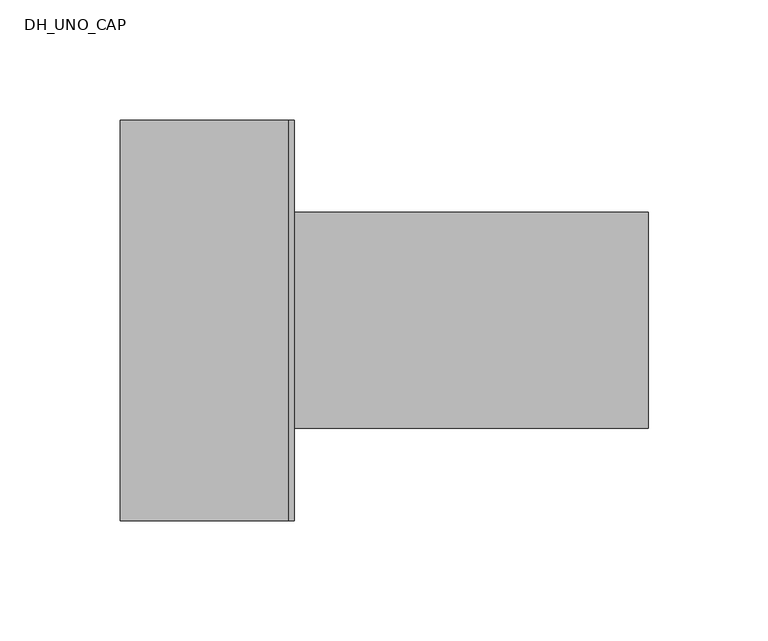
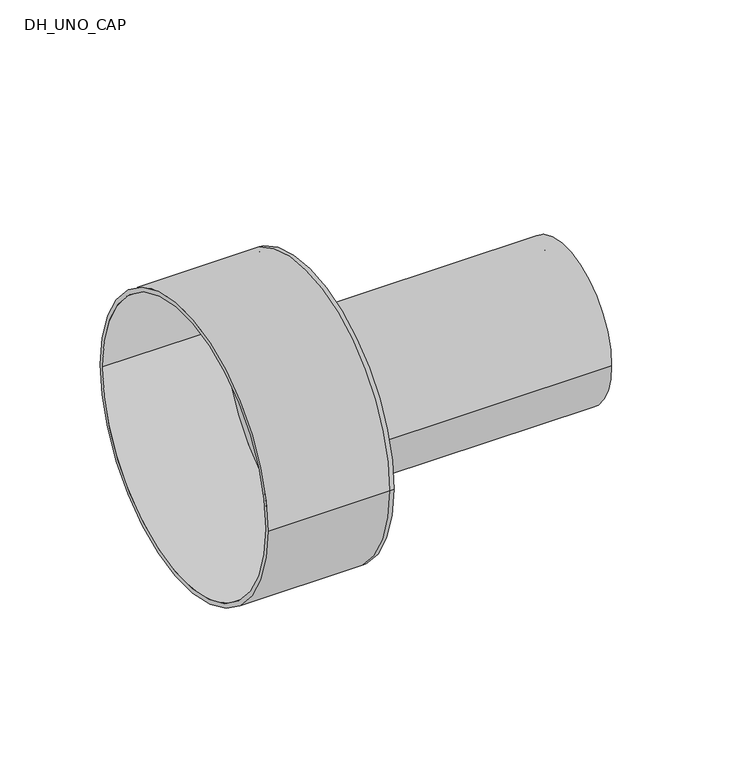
"""IFC4 building model written with IfcOpenShell, lengths in millimetres: pipe fitting geometry, DH_UNO_CAP : RAUTHERMEX UNO 11 COOL - Solid Cap."""

from ifc_helpers import new_model, si_unit, point, frame, origin, origin_2d, place, context, project, spatial, polyline, circle_curve, trimmed, segment, composite_curve, outline, extrude, source, transform, mapped, element, save
from ifc_brep_helpers import plane_surface, cylinder_surface, revolved_surface, advanced_brep


def dh_uno_cap_73119769(model_context):
    return source(origin(), model_context, "Body", "SolidModel", [
        extrude(outline(composite_curve([segment(trimmed(circle_curve(origin_2d(), 45.0), [point((-45.0, 0.0))], [point((45.0, 0.0))], False, "CARTESIAN"), True, "CONTINUOUS"), segment(trimmed(circle_curve(origin_2d(), 45.0), [point((45.0, 0.0))], [point((-45.0, 0.0))], False, "CARTESIAN"), True, "CONTINUOUS")], self_intersect=False), holes=[composite_curve([segment(trimmed(circle_curve(origin_2d(), 36.8), [point((-36.8, 0.0))], [point((36.8, 0.0))], True, "CARTESIAN"), True, "CONTINUOUS"), segment(trimmed(circle_curve(origin_2d(), 36.8), [point((36.8, 0.0))], [point((-36.8, 0.0))], True, "CARTESIAN"), True, "CONTINUOUS")], self_intersect=False)]), frame((0.0, 0.0, 0.0), z_axis=(1.0, 0.0, 0.0), x_axis=(0.0, 1.0, 0.0)), (0.0, 0.0, 1.0), 150.0),
        advanced_brep(
        [(-70.0, -83.5, 0.0), (-70.0, 83.5, 0.0), (-70.0, -81.0, 0.0), (-70.0, 81.0, 0.0), (0.0, -81.0, 0.0), (0.0, 81.0, 0.0), (0.0, -83.5, 0.0), (0.0, 83.5, 0.0), (0.0, 45.0, 0.0), (0.0, -45.0, 0.0), (2.5, -83.5, 0.0), (2.5, 83.5, 0.0), (2.5, -45.0, 0.0), (2.5, 45.0, 0.0)],
        [
            (0, 1, circle_curve(frame((-70.0, 0.0, 0.0), z_axis=(-1.0, 0.0, 0.0), x_axis=(0.0, 1.0, 0.0)), 83.5)),
            (1, 0, circle_curve(frame((-70.0, 0.0, 0.0), z_axis=(-1.0, 0.0, 0.0), x_axis=(0.0, 1.0, 0.0)), 83.5)),
            (2, 3, circle_curve(frame((-70.0, 0.0, 0.0), z_axis=(1.0, 0.0, 0.0), x_axis=(0.0, 1.0, 0.0)), 81.0)),
            (3, 2, circle_curve(frame((-70.0, 0.0, 0.0), z_axis=(1.0, 0.0, 0.0), x_axis=(0.0, 1.0, 0.0)), 81.0)),
            (2, 4),
            (4, 5, circle_curve(frame((0.0, 0.0, 0.0), z_axis=(1.0, 0.0, 0.0), x_axis=(0.0, 1.0, 0.0)), 81.0)),
            (5, 3),
            (5, 4, circle_curve(frame((0.0, 0.0, 0.0), z_axis=(1.0, 0.0, 0.0), x_axis=(0.0, 1.0, 0.0)), 81.0)),
            (0, 6),
            (6, 7, circle_curve(frame((0.0, 0.0, 0.0), z_axis=(-1.0, 0.0, 0.0), x_axis=(0.0, 1.0, 0.0)), 83.5)),
            (7, 1),
            (7, 6, circle_curve(frame((0.0, 0.0, 0.0), z_axis=(-1.0, 0.0, 0.0), x_axis=(0.0, 1.0, 0.0)), 83.5)),
            (8, 9, circle_curve(frame((0.0, 0.0, 0.0), z_axis=(1.0, 0.0, 0.0), x_axis=(0.0, 1.0, 0.0)), 45.0)),
            (9, 8, circle_curve(frame((0.0, 0.0, 0.0), z_axis=(1.0, 0.0, 0.0), x_axis=(0.0, 1.0, 0.0)), 45.0)),
            (10, 11, circle_curve(frame((2.5, 0.0, 0.0), z_axis=(1.0, 0.0, 0.0), x_axis=(0.0, 1.0, 0.0)), 83.5)),
            (11, 10, circle_curve(frame((2.5, 0.0, 0.0), z_axis=(1.0, 0.0, 0.0), x_axis=(0.0, 1.0, 0.0)), 83.5)),
            (12, 13, circle_curve(frame((2.5, 0.0, 0.0), z_axis=(-1.0, 0.0, 0.0), x_axis=(0.0, 1.0, 0.0)), 45.0)),
            (13, 12, circle_curve(frame((2.5, 0.0, 0.0), z_axis=(-1.0, 0.0, 0.0), x_axis=(0.0, 1.0, 0.0)), 45.0)),
            (11, 7),
            (6, 10),
            (8, 13),
            (12, 9),
        ],
        [
            plane_surface(frame((-70.0, 0.0, 0.0), z_axis=(-1.0, 0.0, 0.0), x_axis=(0.0, 0.0, 1.0))),
            revolved_surface(polyline([(0.0, 81.0, 0.0), (-70.0, 81.0, 0.0)]), (-70.0, 0.0, 0.0), (1.0, 0.0, 0.0)),
            cylinder_surface(frame((-70.0, 0.0, 0.0), z_axis=(-1.0, 0.0, 0.0), x_axis=(0.0, 1.0, 0.0)), 83.5),
            plane_surface(frame((0.0, 0.0, 0.0), z_axis=(-1.0, 0.0, 0.0), x_axis=(0.0, 0.0, 1.0))),
            plane_surface(frame((2.5, 0.0, 0.0), z_axis=(1.0, 0.0, 0.0), x_axis=(0.0, 0.0, 1.0))),
            cylinder_surface(frame((0.0, 0.0, 0.0), z_axis=(-1.0, 0.0, 0.0), x_axis=(0.0, 1.0, 0.0)), 83.5),
            revolved_surface(polyline([(0.0, 45.0, 0.0), (2.5, 45.0, 0.0)]), (0.0, 0.0, 0.0), (-1.0, 0.0, 0.0)),
        ],
        [
            (0, [[1, 2], [3, 4]]),
            (1, [[-3, 5, 6, 7]]),
            (1, [[-4, -7, 8, -5]]),
            (2, [[-1, 9, 10, 11]]),
            (2, [[-2, -11, 12, -9]]),
            (3, [[-6, -8], [13, 14]]),
            (4, [[15, 16], [17, 18]]),
            (5, [[-16, 19, -10, 20]]),
            (5, [[-15, -20, -12, -19]]),
            (6, [[21, -17, 22, -13]]),
            (6, [[-21, -14, -22, -18]]),
        ],
    ),
    ])


if __name__ == "__main__":
    model = new_model("IFC4")
    model_context = context("Model", 3, world=origin())
    ifc_project = project(units=[si_unit("LENGTHUNIT", "METRE", prefix="MILLI")], contexts=[model_context])
    site = spatial("IfcSite", under=ifc_project)
    building = spatial("IfcBuilding", under=site)
    placement = place(None, origin())
    dh_uno_cap_shape = dh_uno_cap_73119769(model_context)
    element("IfcPipeFitting", 1, ObjectType="DH_UNO_CAP : RAUTHERMEX UNO 11 COOL - Solid Cap", at=placement, inside=building, context=model_context, shape_type="MappedRepresentation", body=[
        mapped(dh_uno_cap_shape, transform((0.0, 0.0, 0.0), x_axis=(1.0, 0.0, 0.0), y_axis=(0.0, 1.0, 0.0), z_axis=(0.0, 0.0, 1.0))),
    ])
    save(model, "model.ifc")
